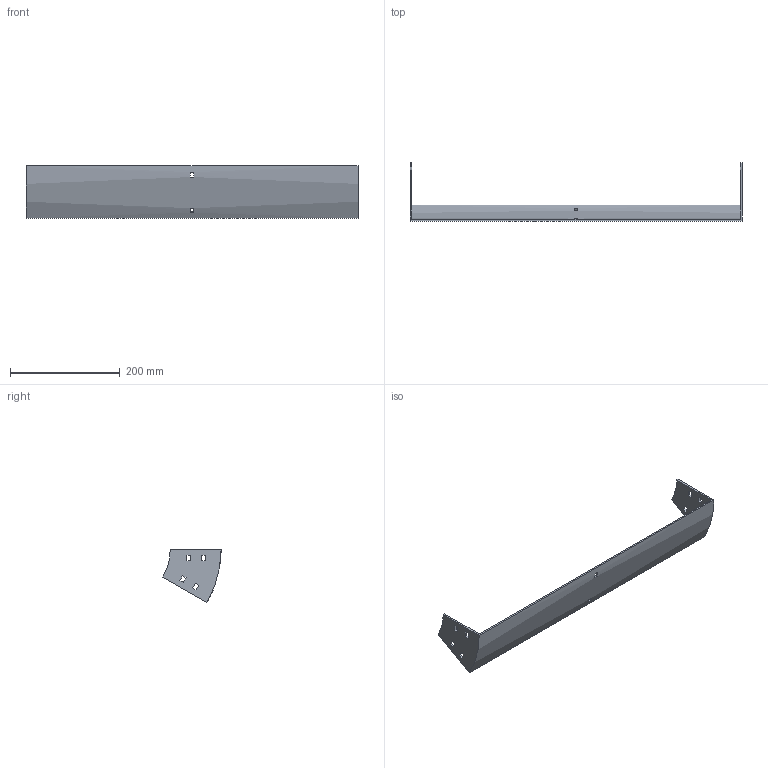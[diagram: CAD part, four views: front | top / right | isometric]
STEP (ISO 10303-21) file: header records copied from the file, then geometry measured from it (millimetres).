
FILE_DESCRIPTION (( 'STEP AP214' ), '1' );
FILE_NAME ('32B1I600.step', '2025-02-21T09:45:29', ( '' ), ( '' ), 'SwSTEP 2.0', 'SolidWorks 2023', '' );
FILE_SCHEMA (( 'AUTOMOTIVE_DESIGN' ));
Length unit declared in the file: millimetre
Products named in the file (1): 32B1I600
Bounding box: 604 x 105.9 x 96.25 mm (x, y, z)
Volume: 255904 mm3; surface area: 153247.6 mm2
Topology: 1 solids, 1 shells, 50 faces, 144 edges, 96 vertices
Faces by surface type: plane 46, cylinder 4
Entity records: 1687 total; most frequent: CARTESIAN_POINT 291, ORIENTED_EDGE 288, DIRECTION 262, EDGE_CURVE 144, VECTOR 128, LINE 128, VERTEX_POINT 96, EDGE_LOOP 70
